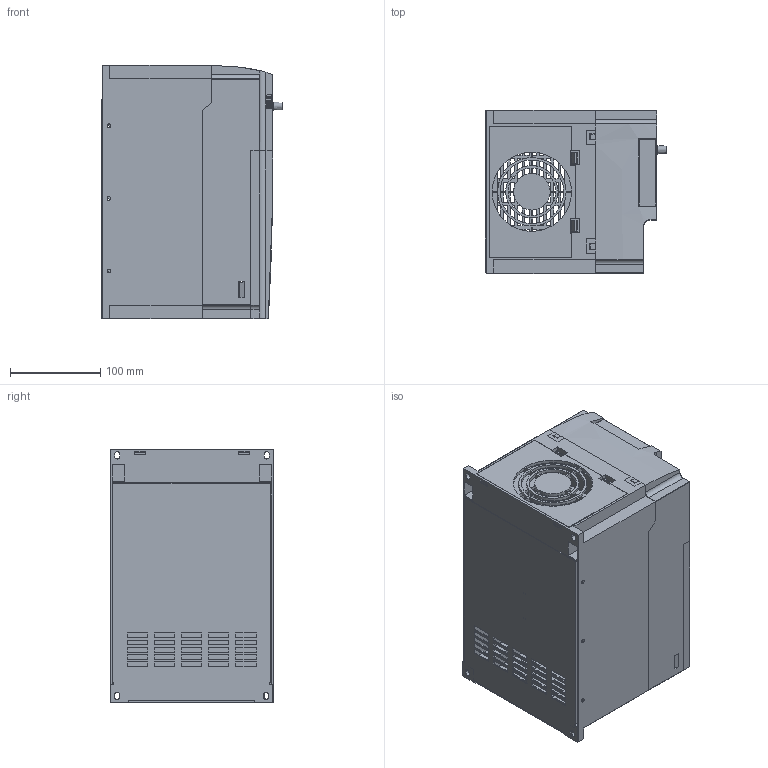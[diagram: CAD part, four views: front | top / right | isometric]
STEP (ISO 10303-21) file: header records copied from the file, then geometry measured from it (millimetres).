
FILE_DESCRIPTION(('STEP AP214'), '1');
FILE_NAME('Ïðåîáðàçîâàòåëü ÷àñòîòû _ MCI-G5.5P7.5-4B', '', ('UNSPECIFIED'), ('UNSPECIFIED'), 'C3D Converter', 'C3D Toolkit', '');
FILE_SCHEMA(('AUTOMOTIVE_DESIGN { 1 0 10303 214 3 1 1}'));
Length unit declared in the file: millimetre
Products named in the file (7): MCI-G5.5/P7.5-4B; MCI-KP-S
Assembly tree (6 placements, depth 2):
  MCI-G5.5/P7.5-4B
    MCI-G5.5/P7.5-4B
    MCI-G5.5/P7.5-4B
    MCI-G5.5/P7.5-4B
    MCI-G5.5/P7.5-4B
    MCI-G5.5/P7.5-4B
    MCI-KP-S
Bounding box: 200.45 x 180.5 x 280.55 mm (x, y, z)
Volume: 823411.1 mm3; surface area: 728653.5 mm2
Topology: 6 solids, 6 shells, 1297 faces, 3656 edges, 2413 vertices
Faces by surface type: plane 1072, cylinder 185, cone 22, sphere 8, torus 6, extrusion 4
Full cylindrical faces by diameter (mm): 3.3 x6, 3.4 x4, 3.9 x2, 4 x10, 4.5 x8, 5 x2, 8 x4, 8.7 x4, 37.6 x1
Entity records: 45788 total; most frequent: CARTESIAN_POINT 8485, ORIENTED_EDGE 7194, DIRECTION 6520, EDGE_CURVE 3597, VECTOR 3102, LINE 3098, VERTEX_POINT 2413, AXIS2_PLACEMENT_3D 1709
